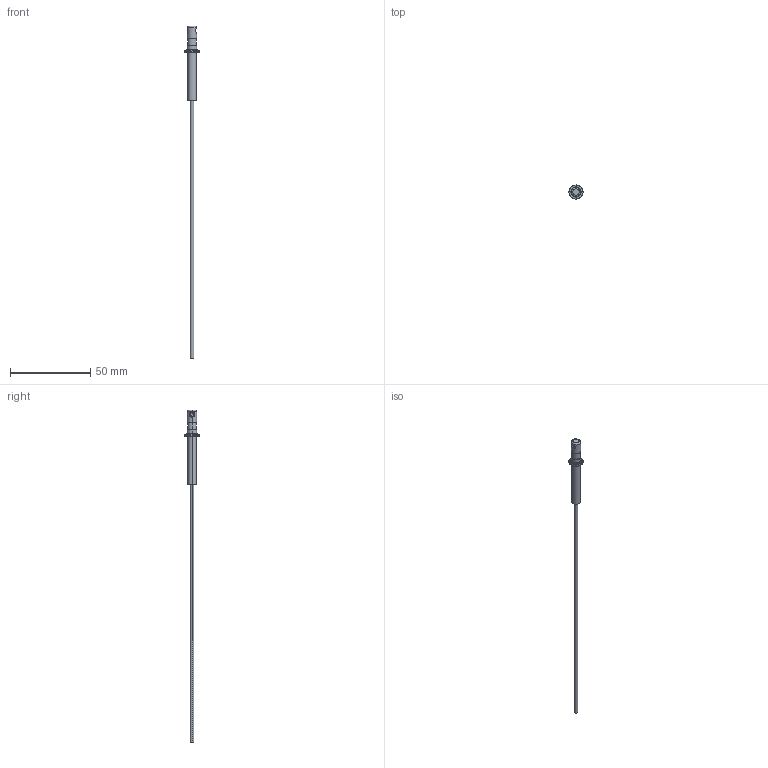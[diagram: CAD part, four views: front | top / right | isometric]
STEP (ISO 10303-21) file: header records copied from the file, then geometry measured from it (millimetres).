
FILE_DESCRIPTION (( 'STEP AP214' ), '1' );
FILE_NAME ('PRB-110-WEB.STEP', '2019-11-04T20:31:01', ( '' ), ( '' ), 'SwSTEP 2.0', 'SolidWorks 2017', '' );
FILE_SCHEMA (( 'AUTOMOTIVE_DESIGN' ));
Length unit declared in the file: millimetre
Products named in the file (1): PRB-110-WEB
Bounding box: 8.8 x 8.8 x 207.5 mm (x, y, z)
Volume: 1848.9 mm3; surface area: 2714 mm2
Topology: 2 solids, 2 shells, 69 faces, 146 edges, 80 vertices
Faces by surface type: cone 21, cylinder 20, plane 20, torus 8
Entity records: 1953 total; most frequent: CARTESIAN_POINT 439, DIRECTION 340, ORIENTED_EDGE 280, AXIS2_PLACEMENT_3D 143, EDGE_CURVE 140, VERTEX_POINT 80, EDGE_LOOP 74, CIRCLE 73
